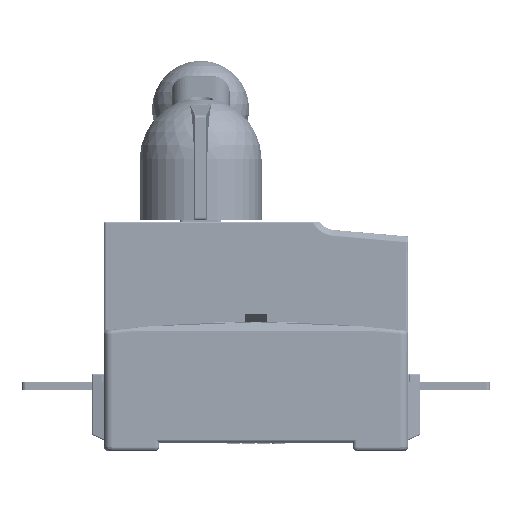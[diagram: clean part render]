
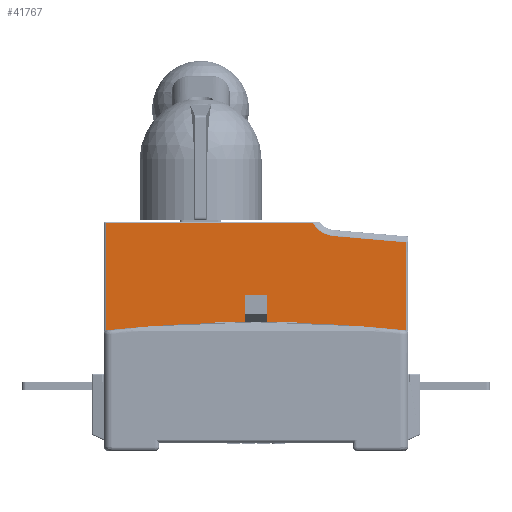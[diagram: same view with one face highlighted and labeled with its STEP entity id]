
A CAD part, left-side view. The second image highlights one B-rep face of the part: STEP entity #41767.
In plain terms, the highlighted planar face has unit normal (-1, 0, 0).
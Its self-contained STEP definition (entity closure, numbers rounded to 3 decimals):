
#36055=DIRECTION('',(0.,0.,-1.));
#36056=VECTOR('',#36055,40.5);
#36057=CARTESIAN_POINT('',(-37.5,0.,-13.5));
#36058=LINE('',#36057,#36056);
#36139=DIRECTION('',(0.,1.,0.));
#36140=VECTOR('',#36139,38.7);
#36141=CARTESIAN_POINT('',(-37.5,0.,-54.));
#36142=LINE('',#36141,#36140);
#36153=CARTESIAN_POINT('',(-37.5,43.332,28.65));
#36154=DIRECTION('',(1.,0.,0.));
#36155=DIRECTION('',(0.,-0.996,-0.087));
#36156=AXIS2_PLACEMENT_3D('',#36153,#36154,#36155);
#36161=DIRECTION('',(0.,0.087,-0.996));
#36162=VECTOR('',#36161,26.252);
#36163=CARTESIAN_POINT('',(-37.5,31.872,54.));
#36164=LINE('',#36163,#36162);
#36168=DIRECTION('',(0.,1.,0.));
#36169=VECTOR('',#36168,10.6);
#36170=CARTESIAN_POINT('',(-37.5,2.4,-4.));
#36171=LINE('',#36170,#36169);
#36175=DIRECTION('',(0.,1.,0.));
#36176=VECTOR('',#36175,2.4);
#36177=CARTESIAN_POINT('',(-37.5,0.,-13.5));
#36178=LINE('',#36177,#36176);
#38938=DIRECTION('',(0.,0.,-1.));
#38939=VECTOR('',#38938,40.5);
#38940=CARTESIAN_POINT('',(-37.5,0.,54.));
#38941=LINE('',#38940,#38939);
#39271=DIRECTION('',(0.,-1.,0.));
#39272=VECTOR('',#39271,31.872);
#39273=CARTESIAN_POINT('',(-37.5,31.872,54.));
#39274=LINE('',#39273,#39272);
#39804=DIRECTION('',(0.,0.,1.));
#39805=VECTOR('',#39804,74.693);
#39806=CARTESIAN_POINT('',(-37.5,38.7,-54.));
#39807=LINE('',#39806,#39805);
#40092=DIRECTION('',(0.,1.,0.));
#40093=VECTOR('',#40092,10.6);
#40094=CARTESIAN_POINT('',(-37.5,2.4,4.));
#40095=LINE('',#40094,#40093);
#40099=DIRECTION('',(0.,0.,-1.));
#40100=VECTOR('',#40099,9.5);
#40101=CARTESIAN_POINT('',(-37.5,2.4,13.5));
#40102=LINE('',#40101,#40100);
#40120=DIRECTION('',(0.,1.,0.));
#40121=VECTOR('',#40120,2.4);
#40122=CARTESIAN_POINT('',(-37.5,0.,13.5));
#40123=LINE('',#40122,#40121);
#40373=DIRECTION('',(0.,0.,-1.));
#40374=VECTOR('',#40373,9.5);
#40375=CARTESIAN_POINT('',(-37.5,2.4,-4.));
#40376=LINE('',#40375,#40374);
#40415=DIRECTION('',(0.,0.,-1.));
#40416=VECTOR('',#40415,8.);
#40417=CARTESIAN_POINT('',(-37.5,13.,4.));
#40418=LINE('',#40417,#40416);
#40836=CARTESIAN_POINT('',(-37.5,0.,54.));
#40837=CARTESIAN_POINT('',(-37.5,0.,13.5));
#40838=VERTEX_POINT('',#40836);
#40839=VERTEX_POINT('',#40837);
#40916=CARTESIAN_POINT('',(-37.5,0.,-54.));
#40917=CARTESIAN_POINT('',(-37.5,38.7,-54.));
#40918=VERTEX_POINT('',#40916);
#40919=VERTEX_POINT('',#40917);
#40974=CARTESIAN_POINT('',(-37.5,2.4,13.5));
#40975=VERTEX_POINT('',#40974);
#41062=CARTESIAN_POINT('',(-37.5,2.4,-4.));
#41063=VERTEX_POINT('',#41062);
#41105=CARTESIAN_POINT('',(-37.5,2.4,4.));
#41106=VERTEX_POINT('',#41105);
#41169=CARTESIAN_POINT('',(-37.5,13.,4.));
#41170=VERTEX_POINT('',#41169);
#41177=CARTESIAN_POINT('',(-37.5,31.872,54.));
#41178=VERTEX_POINT('',#41177);
#41263=CARTESIAN_POINT('',(-37.5,2.4,-13.5));
#41264=VERTEX_POINT('',#41263);
#41341=CARTESIAN_POINT('',(-37.5,0.,-13.5));
#41342=VERTEX_POINT('',#41341);
#41349=CARTESIAN_POINT('',(-37.5,34.16,27.848));
#41351=VERTEX_POINT('',#41349);
#41431=CARTESIAN_POINT('',(-37.5,13.,-4.));
#41432=VERTEX_POINT('',#41431);
#41449=CARTESIAN_POINT('',(-37.5,38.7,20.693));
#41450=VERTEX_POINT('',#41449);
#41734=CARTESIAN_POINT('',(-37.5,39.2,55.));
#41735=DIRECTION('',(1.,0.,0.));
#41736=DIRECTION('',(0.,0.,-1.));
#41737=AXIS2_PLACEMENT_3D('',#41734,#41735,#41736);
#41738=PLANE('',#41737);
#41740=ORIENTED_EDGE('',*,*,#41739,.F.);
#41742=ORIENTED_EDGE('',*,*,#41741,.F.);
#41744=ORIENTED_EDGE('',*,*,#41743,.T.);
#41746=ORIENTED_EDGE('',*,*,#41745,.T.);
#41748=ORIENTED_EDGE('',*,*,#41747,.T.);
#41750=ORIENTED_EDGE('',*,*,#41749,.T.);
#41752=ORIENTED_EDGE('',*,*,#41751,.T.);
#41754=ORIENTED_EDGE('',*,*,#41753,.T.);
#41756=ORIENTED_EDGE('',*,*,#41755,.F.);
#41758=ORIENTED_EDGE('',*,*,#41757,.T.);
#41760=ORIENTED_EDGE('',*,*,#41759,.F.);
#41761=ORIENTED_EDGE('',*,*,#41664,.T.);
#41762=ORIENTED_EDGE('',*,*,#41725,.T.);
#41764=ORIENTED_EDGE('',*,*,#41763,.T.);
#41765=EDGE_LOOP('',(#41740,#41742,#41744,#41746,#41748,#41750,#41752,#41754,
#41756,#41758,#41760,#41761,#41762,#41764));
#41766=FACE_OUTER_BOUND('',#41765,.F.);
#36157=CIRCLE('',#36156,9.207);
#41664=EDGE_CURVE('',#41342,#40918,#36058,.T.);
#41725=EDGE_CURVE('',#40918,#40919,#36142,.T.);
#41739=EDGE_CURVE('',#41351,#41450,#36157,.T.);
#41741=EDGE_CURVE('',#41178,#41351,#36164,.T.);
#41743=EDGE_CURVE('',#41178,#40838,#39274,.T.);
#41745=EDGE_CURVE('',#40838,#40839,#38941,.T.);
#41747=EDGE_CURVE('',#40839,#40975,#40123,.T.);
#41749=EDGE_CURVE('',#40975,#41106,#40102,.T.);
#41751=EDGE_CURVE('',#41106,#41170,#40095,.T.);
#41753=EDGE_CURVE('',#41170,#41432,#40418,.T.);
#41755=EDGE_CURVE('',#41063,#41432,#36171,.T.);
#41757=EDGE_CURVE('',#41063,#41264,#40376,.T.);
#41759=EDGE_CURVE('',#41342,#41264,#36178,.T.);
#41763=EDGE_CURVE('',#40919,#41450,#39807,.T.);
#41767=ADVANCED_FACE('',(#41766),#41738,.F.);
